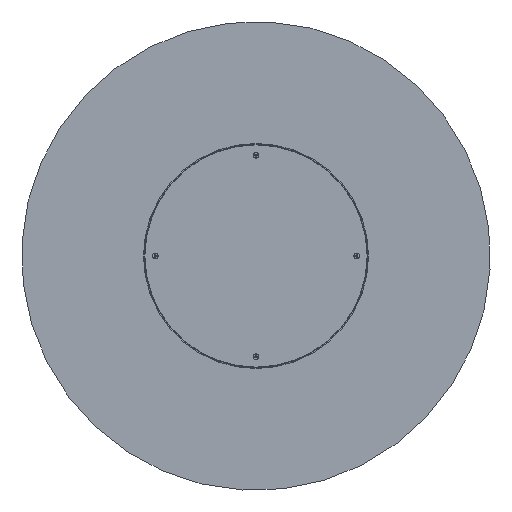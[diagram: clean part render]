
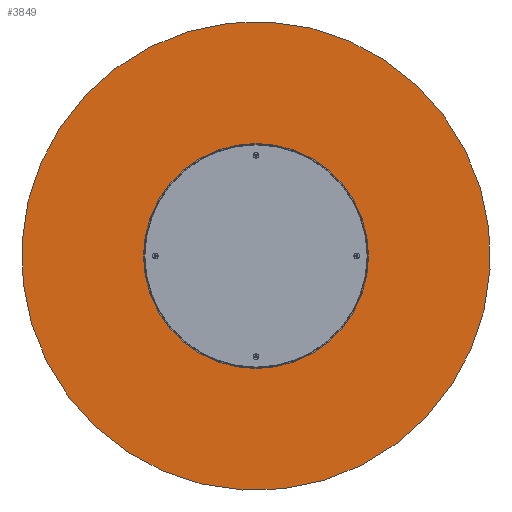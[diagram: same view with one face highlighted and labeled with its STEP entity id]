
A CAD part, front view. The second image highlights one B-rep face of the part: STEP entity #3849.
In plain terms, the highlighted planar face has unit normal (0, -1, 0).
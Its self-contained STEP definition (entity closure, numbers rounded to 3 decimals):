
#5 = PLANE ( 'NONE',  #3312 ) ;
#94 = DIRECTION ( 'NONE',  ( 0., -1., 0. ) ) ;
#133 = CIRCLE ( 'NONE', #2345, 500. ) ;
#152 = DIRECTION ( 'NONE',  ( 0., 0., -1. ) ) ;
#368 = ORIENTED_EDGE ( 'NONE', *, *, #2122, .T. ) ;
#1236 = DIRECTION ( 'NONE',  ( 0., -1., 0. ) ) ;
#1358 = CARTESIAN_POINT ( 'NONE',  ( 0., 0., 0. ) ) ;
#1666 = CIRCLE ( 'NONE', #4608, 500. ) ;
#2122 = EDGE_CURVE ( 'NONE', #4136, #3430, #1666, .T. ) ;
#2324 = CARTESIAN_POINT ( 'NONE',  ( 0., 0., 0. ) ) ;
#2333 = CARTESIAN_POINT ( 'NONE',  ( 0., 0., 0. ) ) ;
#2345 = AXIS2_PLACEMENT_3D ( 'NONE', #1358, #94, #152 ) ;
#2648 = CARTESIAN_POINT ( 'NONE',  ( 0., 0., -500. ) ) ;
#3109 = ORIENTED_EDGE ( 'NONE', *, *, #3417, .T. ) ;
#3312 = AXIS2_PLACEMENT_3D ( 'NONE', #2333, #4356, #4808 ) ;
#3417 = EDGE_CURVE ( 'NONE', #3430, #4136, #133, .T. ) ;
#3430 = VERTEX_POINT ( 'NONE', #4895 ) ;
#3813 = EDGE_LOOP ( 'NONE', ( #368, #3109 ) ) ;
#3849 = ADVANCED_FACE ( 'NONE', ( #4754 ), #5, .T. ) ;
#4136 = VERTEX_POINT ( 'NONE', #2648 ) ;
#4356 = DIRECTION ( 'NONE',  ( 0., -1., 0. ) ) ;
#4608 = AXIS2_PLACEMENT_3D ( 'NONE', #2324, #1236, #4747 ) ;
#4747 = DIRECTION ( 'NONE',  ( 0., 0., -1. ) ) ;
#4754 = FACE_OUTER_BOUND ( 'NONE', #3813, .T. ) ;
#4808 = DIRECTION ( 'NONE',  ( 0., 0., -1. ) ) ;
#4895 = CARTESIAN_POINT ( 'NONE',  ( 0., 0., 500. ) ) ;
